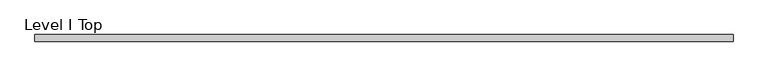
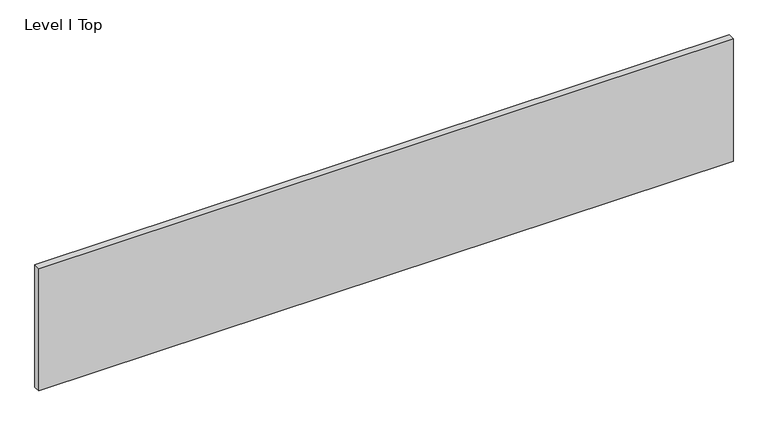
"""IFC4 building model written with IfcOpenShell, lengths in millimetres: proxy geometry, Panel-Fascia-Teknion-Altos-Landscape : Level I Top."""

from ifc_helpers import new_model, si_unit, frame, origin, place, context, project, spatial, polyline, outline, extrude, source, transform, mapped, element, save


def level_i_top_caefc860(model_context):
    return source(origin(), model_context, "Body", "SweptSolid", [
        extrude(outline(polyline([(1005.8356344, -9.525), (-1005.8356344, -9.525), (-1005.8356344, 9.525), (1005.8356344, 9.525), (1005.8356344, -9.525)])), frame((0.0, 0.0, 3.175), z_axis=(0.0, 0.0, 1.0), x_axis=(1.0, 0.0, 0.0)), (0.0, 0.0, 1.0), 374.65),
    ])


if __name__ == "__main__":
    model = new_model("IFC4")
    model_context = context("Model", 3, world=origin())
    ifc_project = project(units=[si_unit("LENGTHUNIT", "METRE", prefix="MILLI")], contexts=[model_context])
    site = spatial("IfcSite", under=ifc_project)
    building = spatial("IfcBuilding", under=site)
    placement = place(None, origin())
    level_i_top_shape = level_i_top_caefc860(model_context)
    element("IfcBuildingElementProxy", 1, Name="Panel-Fascia-Teknion-Altos-Landscape : Level I Top", ObjectType="Panel-Fascia-Teknion-Altos-Landscape : Level I Top", at=placement, inside=building, context=model_context, shape_type="MappedRepresentation", body=[
        mapped(level_i_top_shape, transform((0.0, 0.0, 0.0), x_axis=(1.0, 0.0, 0.0), y_axis=(0.0, 1.0, 0.0), z_axis=(0.0, 0.0, 1.0))),
    ])
    save(model, "model.ifc")
